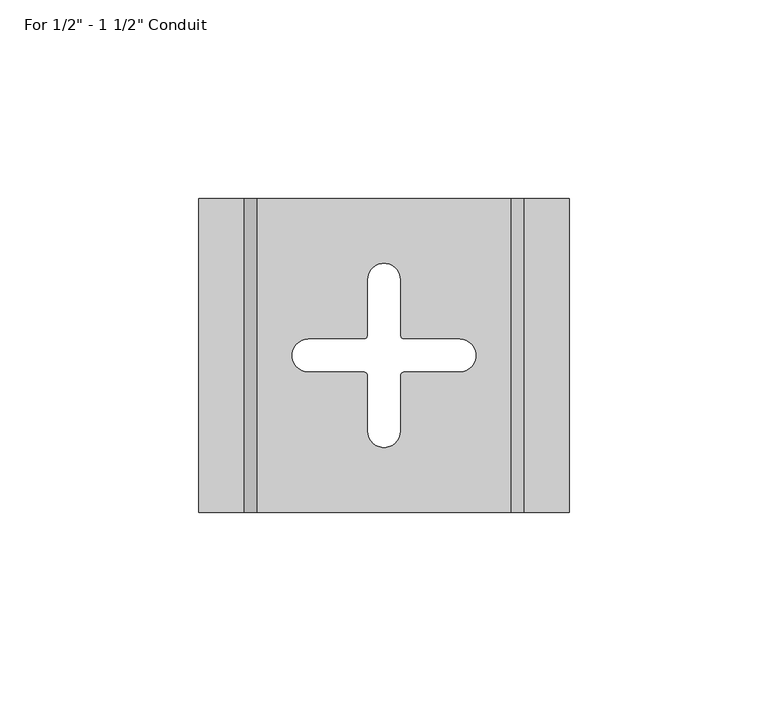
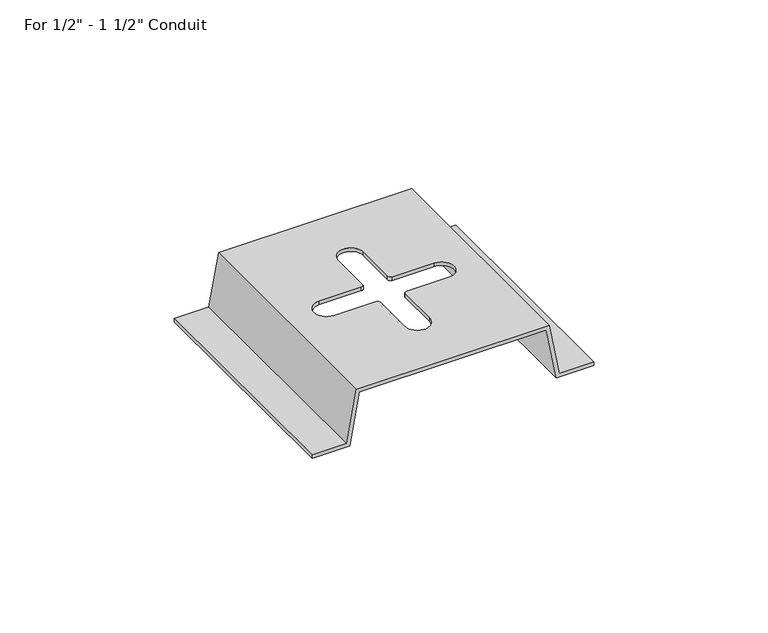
"""IFC4 building model written with IfcOpenShell, lengths in millimetres: electric appliance geometry."""

from ifc_helpers import new_model, si_unit, frame, origin, place, context, project, spatial, polyline, circle_curve, source, transform, mapped, element, save
from ifc_brep_helpers import plane_surface, cylinder_surface, revolved_surface, advanced_brep


def electric_appliance_356cf39a(model_context):
    return source(origin(), model_context, "Body", "AdvancedBrep", [
        advanced_brep(
        [(46.6217, 39.497, 0.0), (34.1669661, 39.497, 0.0), (30.9930804, 39.497, 17.8562), (-30.9930804, 39.497, 17.8562), (-34.1669661, 39.497, 0.0), (-46.6217, 39.497, 0.0), (-46.6217, 39.497, 1.1938), (-35.1738857, 39.497, 1.1938), (-32.0, 39.497, 19.05), (32.0, 39.497, 19.05), (35.1738857, 39.497, 1.1938), (46.6217, 39.497, 1.1938), (46.6217, -39.497, 0.0), (46.6217, -39.497, 1.1938), (35.1738857, -39.497, 1.1938), (32.0, -39.497, 19.05), (-32.0, -39.497, 19.05), (-35.1738857, -39.497, 1.1938), (-46.6217, -39.497, 1.1938), (-46.6217, -39.497, 0.0), (-34.1669661, -39.497, 0.0), (-30.9930804, -39.497, 17.8562), (30.9930804, -39.497, 17.8562), (34.1669661, -39.497, 0.0), (-4.1, 5.1, 19.05), (-4.1, 5.1, 17.8562), (-4.1, 19.05, 17.8562), (-4.1, 19.05, 19.05), (-5.1, 4.1, 19.05), (-5.1, 4.1, 17.8562), (-19.05, 4.1, 19.05), (-19.05, 4.1, 17.8562), (-19.05, -4.1, 19.05), (-19.05, -4.1, 17.8562), (-5.1, -4.1, 19.05), (-5.1, -4.1, 17.8562), (-4.1, -5.1, 19.05), (-4.1, -5.1, 17.8562), (-4.1, -19.05, 19.05), (-4.1, -19.05, 17.8562), (4.1, -19.05, 19.05), (4.1, -19.05, 17.8562), (4.1, -5.1, 19.05), (4.1, -5.1, 17.8562), (5.1, -4.1, 19.05), (5.1, -4.1, 17.8562), (19.05, -4.1, 19.05), (19.05, -4.1, 17.8562), (19.05, 4.1, 19.05), (19.05, 4.1, 17.8562), (5.1, 4.1, 19.05), (5.1, 4.1, 17.8562), (4.1, 5.1, 19.05), (4.1, 5.1, 17.8562), (4.1, 19.05, 19.05), (4.1, 19.05, 17.8562)],
        [
            (0, 1),
            (1, 2),
            (2, 3),
            (3, 4),
            (4, 5),
            (5, 6),
            (6, 7),
            (7, 8),
            (8, 9),
            (9, 10),
            (10, 11),
            (11, 0),
            (12, 13),
            (13, 14),
            (14, 15),
            (15, 16),
            (16, 17),
            (17, 18),
            (18, 19),
            (19, 20),
            (20, 21),
            (21, 22),
            (22, 23),
            (23, 12),
            (1, 23),
            (22, 2),
            (3, 21),
            (20, 4),
            (5, 19),
            (18, 6),
            (7, 17),
            (16, 8),
            (9, 15),
            (14, 10),
            (11, 13),
            (12, 0),
            (24, 25),
            (25, 26),
            (26, 27),
            (27, 24),
            (24, 28, circle_curve(frame((-5.1, 5.1, 19.05), z_axis=(0.0, 0.0, -1.0), x_axis=(1.0, 0.0, 0.0)), 1.0)),
            (28, 29),
            (29, 25, circle_curve(frame((-5.1, 5.1, 17.8562), z_axis=(0.0, 0.0, 1.0), x_axis=(1.0, 0.0, 0.0)), 1.0)),
            (28, 30),
            (30, 31),
            (31, 29),
            (30, 32, circle_curve(frame((-19.05, 0.0, 19.05), z_axis=(0.0, 0.0, 1.0), x_axis=(1.0, 0.0, 0.0)), 4.1)),
            (32, 33),
            (33, 31, circle_curve(frame((-19.05, 0.0, 17.8562), z_axis=(0.0, 0.0, -1.0), x_axis=(1.0, 0.0, 0.0)), 4.1)),
            (32, 34),
            (34, 35),
            (35, 33),
            (34, 36, circle_curve(frame((-5.1, -5.1, 19.05), z_axis=(0.0, 0.0, -1.0), x_axis=(1.0, 0.0, 0.0)), 1.0)),
            (36, 37),
            (37, 35, circle_curve(frame((-5.1, -5.1, 17.8562), z_axis=(0.0, 0.0, 1.0), x_axis=(1.0, 0.0, 0.0)), 1.0)),
            (36, 38),
            (38, 39),
            (39, 37),
            (38, 40, circle_curve(frame((0.0, -19.05, 19.05), z_axis=(0.0, 0.0, 1.0), x_axis=(1.0, 0.0, 0.0)), 4.1)),
            (40, 41),
            (41, 39, circle_curve(frame((0.0, -19.05, 17.8562), z_axis=(0.0, 0.0, -1.0), x_axis=(1.0, 0.0, 0.0)), 4.1)),
            (40, 42),
            (42, 43),
            (43, 41),
            (42, 44, circle_curve(frame((5.1, -5.1, 19.05), z_axis=(0.0, 0.0, -1.0), x_axis=(1.0, 0.0, 0.0)), 1.0)),
            (44, 45),
            (45, 43, circle_curve(frame((5.1, -5.1, 17.8562), z_axis=(0.0, 0.0, 1.0), x_axis=(1.0, 0.0, 0.0)), 1.0)),
            (44, 46),
            (46, 47),
            (47, 45),
            (46, 48, circle_curve(frame((19.05, 0.0, 19.05), z_axis=(0.0, 0.0, 1.0), x_axis=(1.0, 0.0, 0.0)), 4.1)),
            (48, 49),
            (49, 47, circle_curve(frame((19.05, 0.0, 17.8562), z_axis=(0.0, 0.0, -1.0), x_axis=(1.0, 0.0, 0.0)), 4.1)),
            (48, 50),
            (50, 51),
            (51, 49),
            (50, 52, circle_curve(frame((5.1, 5.1, 19.05), z_axis=(0.0, 0.0, -1.0), x_axis=(1.0, 0.0, 0.0)), 1.0)),
            (52, 53),
            (53, 51, circle_curve(frame((5.1, 5.1, 17.8562), z_axis=(0.0, 0.0, 1.0), x_axis=(1.0, 0.0, 0.0)), 1.0)),
            (52, 54),
            (54, 55),
            (55, 53),
            (26, 55, circle_curve(frame((0.0, 19.05, 17.8562), z_axis=(0.0, 0.0, -1.0), x_axis=(1.0, 0.0, 0.0)), 4.1)),
            (54, 27, circle_curve(frame((0.0, 19.05, 19.05), z_axis=(0.0, 0.0, 1.0), x_axis=(1.0, 0.0, 0.0)), 4.1)),
        ],
        [
            plane_surface(frame((34.1669661, 39.497, 0.0), z_axis=(0.0, 1.0, 0.0), x_axis=(-1.0, 0.0, 0.0))),
            plane_surface(frame((34.1669661, -39.497, 0.0), z_axis=(0.0, -1.0, 0.0), x_axis=(1.0, 0.0, 0.0))),
            plane_surface(frame((34.1669661, 39.497, 0.0), z_axis=(-0.9845677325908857, 0.0, -0.17500394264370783), x_axis=(0.0, -1.0, 0.0))),
            plane_surface(frame((-30.9930804, 39.497, 17.8562), z_axis=(0.9845677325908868, 0.0, -0.1750039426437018), x_axis=(0.0, -1.0, 0.0))),
            plane_surface(frame((-46.6217, 39.497, 0.0), z_axis=(-1.0, 0.0, 0.0), x_axis=(0.0, -1.0, 0.0))),
            plane_surface(frame((-35.1738857, 39.497, 1.1938), z_axis=(-0.984567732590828, 0.0, 0.1750039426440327), x_axis=(0.0, -1.0, 0.0))),
            plane_surface(frame((32.0, 39.497, 19.05), z_axis=(0.9845677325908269, 0.0, 0.17500394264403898), x_axis=(0.0, -1.0, 0.0))),
            plane_surface(frame((46.6217, 39.497, 1.1938), z_axis=(1.0, 0.0, 0.0), x_axis=(0.0, -1.0, 0.0))),
            plane_surface(frame((-4.1, 19.05, 19.05), z_axis=(1.0, 0.0, 0.0), x_axis=(0.0, 0.0, -1.0))),
            cylinder_surface(frame((-5.1, 5.1, 17.8562), z_axis=(0.0, 0.0, -1.0), x_axis=(1.0, 0.0, 0.0)), 1.0),
            plane_surface(frame((-5.1, 4.1, 19.05), z_axis=(0.0, -1.0, 0.0), x_axis=(0.0, 0.0, -1.0))),
            revolved_surface(polyline([(-14.950000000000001, 0.0, 19.05), (-14.950000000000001, 0.0, 17.8562)]), (-19.05, 0.0, 17.8562), (0.0, 0.0, 1.0)),
            plane_surface(frame((-19.05, -4.1, 19.05), z_axis=(0.0, 1.0, 0.0), x_axis=(0.0, 0.0, -1.0))),
            cylinder_surface(frame((-5.1, -5.1, 17.8562), z_axis=(0.0, 0.0, -1.0), x_axis=(1.0, 0.0, 0.0)), 1.0),
            plane_surface(frame((-4.1, -5.1, 19.05), z_axis=(1.0, 0.0, 0.0), x_axis=(0.0, 0.0, -1.0))),
            revolved_surface(polyline([(4.1, -19.05, 19.05), (4.1, -19.05, 17.8562)]), (0.0, -19.05, 17.8562), (0.0, 0.0, 1.0)),
            plane_surface(frame((4.1, -19.05, 19.05), z_axis=(-1.0, 0.0, 0.0), x_axis=(0.0, 0.0, -1.0))),
            cylinder_surface(frame((5.1, -5.1, 17.8562), z_axis=(0.0, 0.0, -1.0), x_axis=(1.0, 0.0, 0.0)), 1.0),
            plane_surface(frame((5.1, -4.1, 19.05), z_axis=(0.0, 1.0, 0.0), x_axis=(0.0, 0.0, -1.0))),
            revolved_surface(polyline([(23.15, 0.0, 19.05), (23.15, 0.0, 17.8562)]), (19.05, 0.0, 17.8562), (0.0, 0.0, 1.0)),
            plane_surface(frame((19.05, 4.1, 19.05), z_axis=(0.0, -1.0, 0.0), x_axis=(0.0, 0.0, -1.0))),
            cylinder_surface(frame((5.1, 5.1, 17.8562), z_axis=(0.0, 0.0, -1.0), x_axis=(1.0, 0.0, 0.0)), 1.0),
            plane_surface(frame((4.1, 5.1, 19.05), z_axis=(-1.0, 0.0, 0.0), x_axis=(0.0, 0.0, -1.0))),
            revolved_surface(polyline([(4.1, 19.05, 19.05), (4.1, 19.05, 17.8562)]), (0.0, 19.05, 17.8562), (0.0, 0.0, 1.0)),
            plane_surface(frame((46.6217, 39.497, 0.0), z_axis=(0.0, 0.0, -1.0), x_axis=(0.0, -1.0, 0.0))),
            plane_surface(frame((30.9930804, 39.497, 17.8562), z_axis=(0.0, 0.0, -1.0), x_axis=(0.0, -1.0, 0.0))),
            plane_surface(frame((-34.1669661, 39.497, 0.0), z_axis=(0.0, 0.0, -1.0), x_axis=(0.0, -1.0, 0.0))),
            plane_surface(frame((-46.6217, 39.497, 1.1938), z_axis=(0.0, 0.0, 1.0), x_axis=(0.0, -1.0, 0.0))),
            plane_surface(frame((-32.0, 39.497, 19.05), z_axis=(0.0, 0.0, 1.0), x_axis=(0.0, -1.0, 0.0))),
            plane_surface(frame((35.1738857, 39.497, 1.1938), z_axis=(0.0, 0.0, 1.0), x_axis=(0.0, -1.0, 0.0))),
        ],
        [
            (0, [[1, 2, 3, 4, 5, 6, 7, 8, 9, 10, 11, 12]]),
            (1, [[13, 14, 15, 16, 17, 18, 19, 20, 21, 22, 23, 24]]),
            (2, [[-2, 25, -23, 26]]),
            (3, [[-4, 27, -21, 28]]),
            (4, [[-6, 29, -19, 30]]),
            (5, [[-8, 31, -17, 32]]),
            (6, [[-10, 33, -15, 34]]),
            (7, [[-12, 35, -13, 36]]),
            (8, [[37, 38, 39, 40]]),
            (9, [[-37, 41, 42, 43]]),
            (10, [[-42, 44, 45, 46]]),
            (11, [[-45, 47, 48, 49]]),
            (12, [[-48, 50, 51, 52]]),
            (13, [[-51, 53, 54, 55]]),
            (14, [[-54, 56, 57, 58]]),
            (15, [[-57, 59, 60, 61]]),
            (16, [[-60, 62, 63, 64]]),
            (17, [[-63, 65, 66, 67]]),
            (18, [[-66, 68, 69, 70]]),
            (19, [[-69, 71, 72, 73]]),
            (20, [[-72, 74, 75, 76]]),
            (21, [[-75, 77, 78, 79]]),
            (22, [[-78, 80, 81, 82]]),
            (23, [[-39, 83, -81, 84]]),
            (24, [[-1, -36, -24, -25]]),
            (25, [[-3, -26, -22, -27], [-38, -43, -46, -49, -52, -55, -58, -61, -64, -67, -70, -73, -76, -79, -82, -83]]),
            (26, [[-5, -28, -20, -29]]),
            (27, [[-7, -30, -18, -31]]),
            (28, [[-9, -32, -16, -33], [-40, -84, -80, -77, -74, -71, -68, -65, -62, -59, -56, -53, -50, -47, -44, -41]]),
            (29, [[-11, -34, -14, -35]]),
        ],
    ),
    ])


if __name__ == "__main__":
    model = new_model("IFC4")
    model_context = context("Model", 3, world=origin())
    ifc_project = project(units=[si_unit("LENGTHUNIT", "METRE", prefix="MILLI")], contexts=[model_context])
    site = spatial("IfcSite", under=ifc_project)
    building = spatial("IfcBuilding", under=site)
    placement = place(None, origin())
    electric_appliance_shape = electric_appliance_356cf39a(model_context)
    element("IfcElectricAppliance", 1, ObjectType="Clamp-Conduit-Cablofil : For 1/2\" - 1 1/2\" Conduit", at=placement, inside=building, context=model_context, shape_type="MappedRepresentation", body=[
        mapped(electric_appliance_shape, transform((0.0, 0.0, 0.0), x_axis=(1.0, 0.0, 0.0), y_axis=(0.0, 1.0, 0.0), z_axis=(0.0, 0.0, 1.0))),
    ])
    save(model, "model.ifc")
